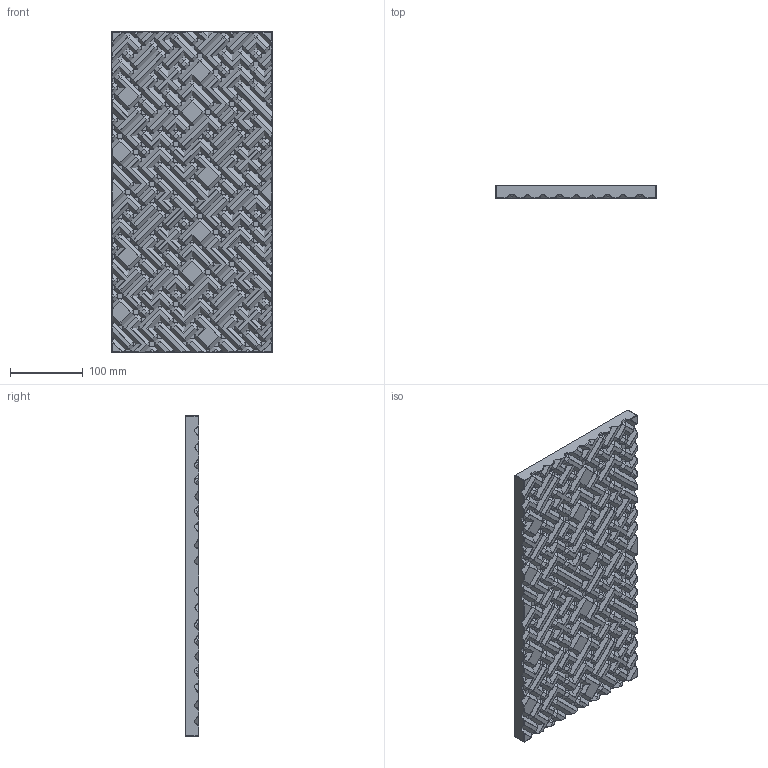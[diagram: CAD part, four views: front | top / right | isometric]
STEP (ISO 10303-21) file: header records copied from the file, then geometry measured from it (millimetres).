
FILE_DESCRIPTION(/* description */ (''),/* implementation_level */ '2;1');
FILE_NAME(/* name */ 'CR4401~1',/* time_stamp */ '2025-06-18T11:44:38+02:00',/* author */ (''),/* organization */ (''),/* preprocessor_version */ 'ST-DEVELOPER v15',/* originating_system */ '',/* authorisation */ '');
FILE_SCHEMA (('AUTOMOTIVE_DESIGN'));
Products named in the file (1): Document
Bounding box: 220 x 18 x 440 mm (x, y, z)
Volume: 1499066 mm3; surface area: 242591.3 mm2
Topology: 1 solids, 1 shells, 2996 faces, 7317 edges, 4256 vertices
Faces by surface type: plane 1737, bspline 1259
Entity records: 101172 total; most frequent: CARTESIAN_POINT 56316, ORIENTED_EDGE 14480, EDGE_CURVE 7240, B_SPLINE_CURVE_WITH_KNOTS 4627, VERTEX_POINT 4256, EDGE_LOOP 3006, ADVANCED_FACE 2996, FACE_OUTER_BOUND 2996
